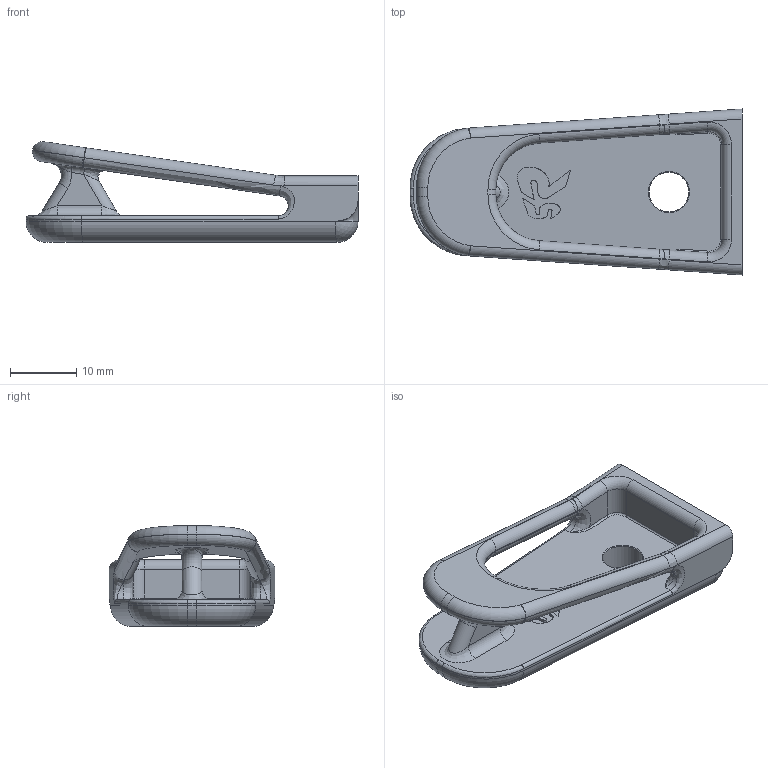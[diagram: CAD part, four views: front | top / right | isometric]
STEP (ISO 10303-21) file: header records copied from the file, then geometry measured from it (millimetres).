
FILE_DESCRIPTION(/* description */ (''),/* implementation_level */ '2;1');
FILE_NAME(/* name */ 'Halo 2025 with 6mm Hole and SR Logo.stp',/* time_stamp */ '2025-04-10T05:12:26-03:00',/* author */ ('willi'),/* organization */ (''),/* preprocessor_version */ 'ST-DEVELOPER v20',/* originating_system */ 'Autodesk Inventor 2025',/* authorisation */ '');
FILE_SCHEMA (('AUTOMOTIVE_DESIGN { 1 0 10303 214 3 1 1 }'));
Length unit declared in the file: millimetre
Products named in the file (1): Halo 2025 with 6mm Hole and SR Logo
Bounding box: 50 x 25 x 15.16 mm (x, y, z)
Volume: 5625.9 mm3; surface area: 2818.3 mm2
Topology: 1 solids, 1 shells, 471 faces, 1341 edges, 864 vertices
Faces by surface type: plane 370, cylinder 44, bspline 39, torus 15, sphere 2, cone 1
Full cylindrical faces by diameter (mm): 6 x1
Entity records: 16902 total; most frequent: CARTESIAN_POINT 4811, ORIENTED_EDGE 2666, DIRECTION 2253, EDGE_CURVE 1333, LINE 1131, VECTOR 1131, VERTEX_POINT 863, AXIS2_PLACEMENT_3D 561
